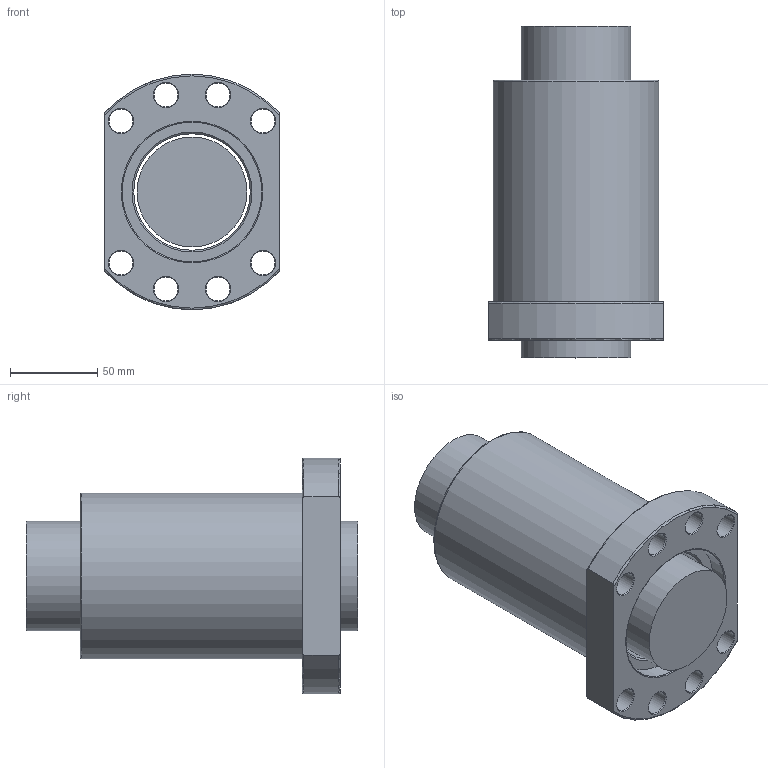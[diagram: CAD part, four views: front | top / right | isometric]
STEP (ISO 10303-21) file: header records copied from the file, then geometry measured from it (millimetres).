
FILE_DESCRIPTION(/* description */ (''),/* implementation_level */ '2;1');
FILE_NAME(/* name */ '6340.prt.step',/* time_stamp */ '2008-12-05T09:30:53+08:00',/* author */ (''),/* organization */ (''),/* preprocessor_version */ 'ST-DEVELOPER v11',/* originating_system */ 'SIEMENS UGS NX 6.0',/* authorisation */ '');
FILE_SCHEMA (('AUTOMOTIVE_DESIGN { 1 0 10303 214 1 1 1 1 }'));
Length unit declared in the file: millimetre
Products named in the file (1): 6340
Bounding box: 100 x 190 x 135 mm (x, y, z)
Volume: 1182190.8 mm3; surface area: 144278.9 mm2
Topology: 2 solids, 2 shells, 49 faces, 109 edges, 67 vertices
Faces by surface type: cone 18, cylinder 15, plane 9, torus 7
Full cylindrical faces by diameter (mm): 13.5 x8, 62.95 x1, 66.7 x1, 80 x2, 95 x1
Entity records: 1326 total; most frequent: CARTESIAN_POINT 304, DIRECTION 218, ORIENTED_EDGE 142, AXIS2_PLACEMENT_3D 105, EDGE_LOOP 104, FACE_BOUND 94, EDGE_CURVE 71, VERTEX_POINT 63
